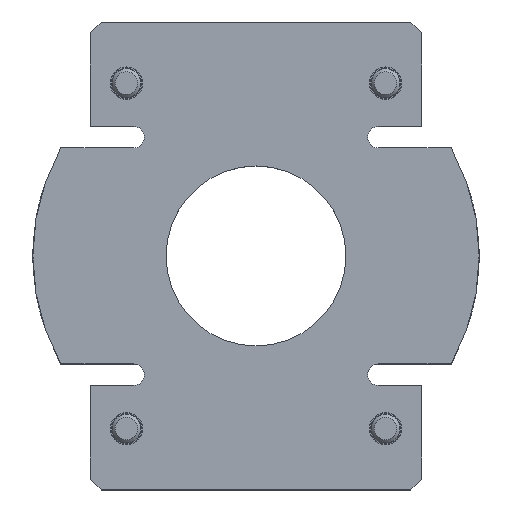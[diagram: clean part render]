
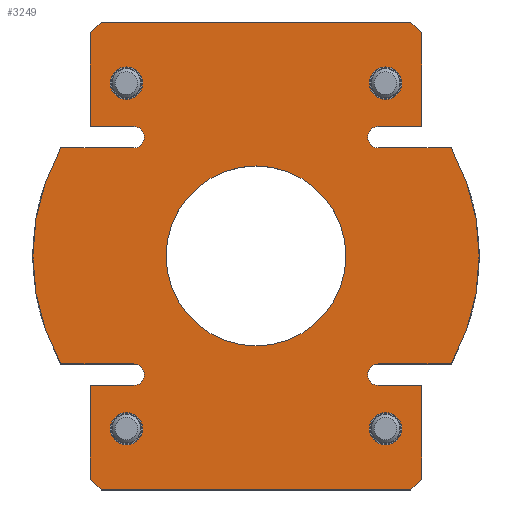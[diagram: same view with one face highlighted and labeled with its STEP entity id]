
A CAD part, top view. The second image highlights one B-rep face of the part: STEP entity #3249.
In plain terms, the highlighted planar face has unit normal (0, 0, 1) as drawn and (0, 0, -1) by its records, which use the part's own axes.
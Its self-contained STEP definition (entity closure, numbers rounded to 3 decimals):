
#163=FACE_BOUND('',#621,.T.);
#164=FACE_BOUND('',#622,.T.);
#165=FACE_BOUND('',#623,.T.);
#166=FACE_BOUND('',#624,.T.);
#167=FACE_BOUND('',#625,.T.);
#290=PLANE('',#3674);
#405=FACE_OUTER_BOUND('',#620,.T.);
#620=EDGE_LOOP('',(#2659,#2660,#2661,#2662,#2663,#2664,#2665,#2666,#2667,
#2668,#2669,#2670,#2671,#2672,#2673,#2674,#2675,#2676,#2677,#2678,#2679,
#2680,#2681,#2682));
#621=EDGE_LOOP('',(#2683));
#622=EDGE_LOOP('',(#2684));
#623=EDGE_LOOP('',(#2685));
#624=EDGE_LOOP('',(#2686));
#625=EDGE_LOOP('',(#2687,#2688));
#766=LINE('',#5132,#978);
#770=LINE('',#5139,#982);
#790=LINE('',#5208,#1002);
#793=LINE('',#5213,#1005);
#795=LINE('',#5217,#1007);
#797=LINE('',#5221,#1009);
#799=LINE('',#5226,#1011);
#801=LINE('',#5229,#1013);
#805=LINE('',#5252,#1017);
#810=LINE('',#5265,#1022);
#814=LINE('',#5275,#1026);
#817=LINE('',#5283,#1029);
#827=LINE('',#5326,#1039);
#846=LINE('',#5367,#1058);
#854=LINE('',#5398,#1066);
#859=LINE('',#5416,#1071);
#862=LINE('',#5423,#1074);
#863=LINE('',#5425,#1075);
#978=VECTOR('',#4113,10.);
#982=VECTOR('',#4119,10.);
#1002=VECTOR('',#4171,10.);
#1005=VECTOR('',#4176,10.);
#1007=VECTOR('',#4180,10.);
#1009=VECTOR('',#4184,10.);
#1011=VECTOR('',#4188,10.);
#1013=VECTOR('',#4192,10.);
#1017=VECTOR('',#4218,10.);
#1022=VECTOR('',#4233,10.);
#1026=VECTOR('',#4243,10.);
#1029=VECTOR('',#4252,10.);
#1039=VECTOR('',#4298,10.);
#1058=VECTOR('',#4331,10.);
#1066=VECTOR('',#4369,10.);
#1071=VECTOR('',#4390,10.);
#1074=VECTOR('',#4399,10.);
#1075=VECTOR('',#4402,10.);
#1212=CIRCLE('',#3601,1.5);
#1213=CIRCLE('',#3603,1.5);
#1214=CIRCLE('',#3606,1.5);
#1215=CIRCLE('',#3609,1.5);
#1234=CIRCLE('',#3647,31.);
#1239=CIRCLE('',#3660,31.);
#1240=CIRCLE('',#3664,2.25);
#1241=CIRCLE('',#3666,2.25);
#1242=CIRCLE('',#3668,2.25);
#1243=CIRCLE('',#3670,2.25);
#1244=CIRCLE('',#3672,12.5);
#1245=CIRCLE('',#3673,12.5);
#1413=VERTEX_POINT('',#5129);
#1414=VERTEX_POINT('',#5131);
#1416=VERTEX_POINT('',#5137);
#1448=VERTEX_POINT('',#5205);
#1449=VERTEX_POINT('',#5207);
#1450=VERTEX_POINT('',#5211);
#1451=VERTEX_POINT('',#5215);
#1452=VERTEX_POINT('',#5219);
#1453=VERTEX_POINT('',#5223);
#1454=VERTEX_POINT('',#5225);
#1461=VERTEX_POINT('',#5249);
#1462=VERTEX_POINT('',#5251);
#1463=VERTEX_POINT('',#5255);
#1464=VERTEX_POINT('',#5259);
#1465=VERTEX_POINT('',#5261);
#1466=VERTEX_POINT('',#5267);
#1467=VERTEX_POINT('',#5269);
#1468=VERTEX_POINT('',#5273);
#1469=VERTEX_POINT('',#5277);
#1470=VERTEX_POINT('',#5279);
#1485=VERTEX_POINT('',#5325);
#1500=VERTEX_POINT('',#5365);
#1513=VERTEX_POINT('',#5415);
#1514=VERTEX_POINT('',#5419);
#1515=VERTEX_POINT('',#5427);
#1516=VERTEX_POINT('',#5431);
#1517=VERTEX_POINT('',#5435);
#1518=VERTEX_POINT('',#5439);
#1519=VERTEX_POINT('',#5443);
#1520=VERTEX_POINT('',#5444);
#1777=EDGE_CURVE('',#1413,#1414,#766,.T.);
#1781=EDGE_CURVE('',#1416,#1413,#770,.T.);
#1815=EDGE_CURVE('',#1448,#1449,#790,.T.);
#1818=EDGE_CURVE('',#1450,#1448,#793,.T.);
#1820=EDGE_CURVE('',#1451,#1450,#795,.T.);
#1822=EDGE_CURVE('',#1452,#1451,#797,.T.);
#1824=EDGE_CURVE('',#1453,#1454,#799,.T.);
#1826=EDGE_CURVE('',#1414,#1453,#801,.T.);
#1836=EDGE_CURVE('',#1462,#1461,#805,.T.);
#1838=EDGE_CURVE('',#1463,#1462,#1212,.T.);
#1841=EDGE_CURVE('',#1465,#1464,#1213,.T.);
#1843=EDGE_CURVE('',#1452,#1465,#810,.T.);
#1845=EDGE_CURVE('',#1467,#1466,#1214,.T.);
#1848=EDGE_CURVE('',#1466,#1468,#814,.T.);
#1850=EDGE_CURVE('',#1470,#1469,#1215,.T.);
#1852=EDGE_CURVE('',#1416,#1470,#817,.T.);
#1872=EDGE_CURVE('',#1485,#1467,#827,.T.);
#1893=EDGE_CURVE('',#1464,#1500,#846,.T.);
#1906=EDGE_CURVE('',#1485,#1500,#1234,.T.);
#1908=EDGE_CURVE('',#1454,#1468,#854,.T.);
#1917=EDGE_CURVE('',#1513,#1463,#859,.T.);
#1919=EDGE_CURVE('',#1514,#1513,#1239,.T.);
#1921=EDGE_CURVE('',#1469,#1514,#862,.T.);
#1922=EDGE_CURVE('',#1449,#1461,#863,.T.);
#1924=EDGE_CURVE('',#1515,#1515,#1240,.T.);
#1926=EDGE_CURVE('',#1516,#1516,#1241,.T.);
#1928=EDGE_CURVE('',#1517,#1517,#1242,.T.);
#1930=EDGE_CURVE('',#1518,#1518,#1243,.T.);
#1931=EDGE_CURVE('',#1519,#1520,#1244,.T.);
#1932=EDGE_CURVE('',#1520,#1519,#1245,.T.);
#2659=ORIENTED_EDGE('',*,*,#1777,.F.);
#2660=ORIENTED_EDGE('',*,*,#1781,.F.);
#2661=ORIENTED_EDGE('',*,*,#1852,.T.);
#2662=ORIENTED_EDGE('',*,*,#1850,.T.);
#2663=ORIENTED_EDGE('',*,*,#1921,.T.);
#2664=ORIENTED_EDGE('',*,*,#1919,.T.);
#2665=ORIENTED_EDGE('',*,*,#1917,.T.);
#2666=ORIENTED_EDGE('',*,*,#1838,.T.);
#2667=ORIENTED_EDGE('',*,*,#1836,.T.);
#2668=ORIENTED_EDGE('',*,*,#1922,.F.);
#2669=ORIENTED_EDGE('',*,*,#1815,.F.);
#2670=ORIENTED_EDGE('',*,*,#1818,.F.);
#2671=ORIENTED_EDGE('',*,*,#1820,.F.);
#2672=ORIENTED_EDGE('',*,*,#1822,.F.);
#2673=ORIENTED_EDGE('',*,*,#1843,.T.);
#2674=ORIENTED_EDGE('',*,*,#1841,.T.);
#2675=ORIENTED_EDGE('',*,*,#1893,.T.);
#2676=ORIENTED_EDGE('',*,*,#1906,.F.);
#2677=ORIENTED_EDGE('',*,*,#1872,.T.);
#2678=ORIENTED_EDGE('',*,*,#1845,.T.);
#2679=ORIENTED_EDGE('',*,*,#1848,.T.);
#2680=ORIENTED_EDGE('',*,*,#1908,.F.);
#2681=ORIENTED_EDGE('',*,*,#1824,.F.);
#2682=ORIENTED_EDGE('',*,*,#1826,.F.);
#2683=ORIENTED_EDGE('',*,*,#1924,.T.);
#2684=ORIENTED_EDGE('',*,*,#1926,.T.);
#2685=ORIENTED_EDGE('',*,*,#1928,.T.);
#2686=ORIENTED_EDGE('',*,*,#1930,.T.);
#2687=ORIENTED_EDGE('',*,*,#1931,.T.);
#2688=ORIENTED_EDGE('',*,*,#1932,.T.);
#3249=ADVANCED_FACE('',(#405,#163,#164,#165,#166,#167),#290,.F.);
#3601=AXIS2_PLACEMENT_3D('',#5256,#4222,#4223);
#3603=AXIS2_PLACEMENT_3D('',#5262,#4228,#4229);
#3606=AXIS2_PLACEMENT_3D('',#5270,#4237,#4238);
#3609=AXIS2_PLACEMENT_3D('',#5280,#4247,#4248);
#3647=AXIS2_PLACEMENT_3D('',#5393,#4360,#4361);
#3660=AXIS2_PLACEMENT_3D('',#5420,#4394,#4395);
#3664=AXIS2_PLACEMENT_3D('',#5429,#4406,#4407);
#3666=AXIS2_PLACEMENT_3D('',#5433,#4411,#4412);
#3668=AXIS2_PLACEMENT_3D('',#5437,#4416,#4417);
#3670=AXIS2_PLACEMENT_3D('',#5441,#4421,#4422);
#3672=AXIS2_PLACEMENT_3D('',#5445,#4425,#4426);
#3673=AXIS2_PLACEMENT_3D('',#5446,#4427,#4428);
#3674=AXIS2_PLACEMENT_3D('',#5448,#4430,#4431);
#4113=DIRECTION('',(-0.707,-0.707,0.));
#4119=DIRECTION('',(-1.,0.,0.));
#4171=DIRECTION('',(-0.707,0.707,0.));
#4176=DIRECTION('',(0.,1.,0.));
#4180=DIRECTION('',(0.707,0.707,0.));
#4184=DIRECTION('',(1.,0.,0.));
#4188=DIRECTION('',(0.707,-0.707,0.));
#4192=DIRECTION('',(0.,-1.,0.));
#4218=DIRECTION('',(0.,1.,0.));
#4222=DIRECTION('center_axis',(0.,0.,1.));
#4223=DIRECTION('ref_axis',(-1.,0.,0.));
#4228=DIRECTION('center_axis',(0.,0.,1.));
#4229=DIRECTION('ref_axis',(1.,0.,0.));
#4233=DIRECTION('',(0.,1.,0.));
#4237=DIRECTION('center_axis',(0.,0.,1.));
#4238=DIRECTION('ref_axis',(-1.,0.,0.));
#4243=DIRECTION('',(0.,-1.,0.));
#4247=DIRECTION('center_axis',(0.,0.,1.));
#4248=DIRECTION('ref_axis',(1.,0.,0.));
#4252=DIRECTION('',(0.,-1.,0.));
#4298=DIRECTION('',(0.,1.,0.));
#4331=DIRECTION('',(0.,-1.,0.));
#4360=DIRECTION('center_axis',(0.,0.,1.));
#4361=DIRECTION('ref_axis',(1.,0.,0.));
#4369=DIRECTION('',(1.,0.,0.));
#4390=DIRECTION('',(0.,-1.,0.));
#4394=DIRECTION('center_axis',(0.,0.,-1.));
#4395=DIRECTION('ref_axis',(1.,0.,0.));
#4399=DIRECTION('',(0.,1.,0.));
#4402=DIRECTION('',(-1.,0.,0.));
#4406=DIRECTION('center_axis',(0.,0.,1.));
#4407=DIRECTION('ref_axis',(1.,0.,0.));
#4411=DIRECTION('center_axis',(0.,0.,1.));
#4412=DIRECTION('ref_axis',(1.,0.,0.));
#4416=DIRECTION('center_axis',(0.,0.,1.));
#4417=DIRECTION('ref_axis',(1.,0.,0.));
#4421=DIRECTION('center_axis',(0.,0.,1.));
#4422=DIRECTION('ref_axis',(1.,0.,0.));
#4425=DIRECTION('center_axis',(0.,0.,1.));
#4426=DIRECTION('ref_axis',(1.,0.,0.));
#4427=DIRECTION('center_axis',(0.,0.,1.));
#4428=DIRECTION('ref_axis',(1.,0.,0.));
#4430=DIRECTION('center_axis',(0.,0.,1.));
#4431=DIRECTION('ref_axis',(1.,0.,0.));
#5129=CARTESIAN_POINT('',(-31.,23.,0.));
#5131=CARTESIAN_POINT('',(-32.5,21.5,0.));
#5132=CARTESIAN_POINT('',(-29.375,24.625,0.));
#5137=CARTESIAN_POINT('',(-18.,23.,0.));
#5139=CARTESIAN_POINT('',(32.5,23.,0.));
#5205=CARTESIAN_POINT('',(32.5,21.5,0.));
#5207=CARTESIAN_POINT('',(31.,23.,0.));
#5208=CARTESIAN_POINT('',(29.375,24.625,0.));
#5211=CARTESIAN_POINT('',(32.5,-21.5,0.));
#5213=CARTESIAN_POINT('',(32.5,-23.,0.));
#5215=CARTESIAN_POINT('',(31.,-23.,0.));
#5217=CARTESIAN_POINT('',(29.375,-24.625,0.));
#5219=CARTESIAN_POINT('',(18.,-23.,0.));
#5221=CARTESIAN_POINT('',(-32.5,-23.,0.));
#5223=CARTESIAN_POINT('',(-32.5,-21.5,0.));
#5225=CARTESIAN_POINT('',(-31.,-23.,0.));
#5226=CARTESIAN_POINT('',(-29.375,-24.625,0.));
#5229=CARTESIAN_POINT('',(-32.5,23.,0.));
#5249=CARTESIAN_POINT('',(18.,23.,0.));
#5251=CARTESIAN_POINT('',(18.,17.,0.));
#5252=CARTESIAN_POINT('',(18.,11.5,0.));
#5255=CARTESIAN_POINT('',(15.,17.,0.));
#5256=CARTESIAN_POINT('Origin',(16.5,17.,0.));
#5259=CARTESIAN_POINT('',(15.,-17.,0.));
#5261=CARTESIAN_POINT('',(18.,-17.,0.));
#5262=CARTESIAN_POINT('Origin',(16.5,-17.,0.));
#5265=CARTESIAN_POINT('',(18.,-8.5,0.));
#5267=CARTESIAN_POINT('',(-18.,-17.,0.));
#5269=CARTESIAN_POINT('',(-15.,-17.,0.));
#5270=CARTESIAN_POINT('Origin',(-16.5,-17.,0.));
#5273=CARTESIAN_POINT('',(-18.,-23.,0.));
#5275=CARTESIAN_POINT('',(-18.,-8.5,0.));
#5277=CARTESIAN_POINT('',(-15.,17.,0.));
#5279=CARTESIAN_POINT('',(-18.,17.,0.));
#5280=CARTESIAN_POINT('Origin',(-16.5,17.,0.));
#5283=CARTESIAN_POINT('',(-18.,11.5,0.));
#5325=CARTESIAN_POINT('',(-15.,-27.129,0.));
#5326=CARTESIAN_POINT('',(-15.,-11.5,0.));
#5365=CARTESIAN_POINT('',(15.,-27.129,0.));
#5367=CARTESIAN_POINT('',(15.,-11.5,0.));
#5393=CARTESIAN_POINT('Origin',(0.,0.,0.));
#5398=CARTESIAN_POINT('',(-32.5,-23.,0.));
#5415=CARTESIAN_POINT('',(15.,27.129,0.));
#5416=CARTESIAN_POINT('',(15.,7.5,0.));
#5419=CARTESIAN_POINT('',(-15.,27.129,0.));
#5420=CARTESIAN_POINT('Origin',(0.,0.,0.));
#5423=CARTESIAN_POINT('',(-15.,8.5,0.));
#5425=CARTESIAN_POINT('',(32.5,23.,0.));
#5427=CARTESIAN_POINT('',(21.75,18.,0.));
#5429=CARTESIAN_POINT('Origin',(24.,18.,0.));
#5431=CARTESIAN_POINT('',(-26.25,-18.,0.));
#5433=CARTESIAN_POINT('Origin',(-24.,-18.,0.));
#5435=CARTESIAN_POINT('',(-26.25,18.,0.));
#5437=CARTESIAN_POINT('Origin',(-24.,18.,0.));
#5439=CARTESIAN_POINT('',(21.75,-18.,0.));
#5441=CARTESIAN_POINT('Origin',(24.,-18.,0.));
#5443=CARTESIAN_POINT('',(12.5,0.,0.));
#5444=CARTESIAN_POINT('',(-12.5,0.,0.));
#5445=CARTESIAN_POINT('Origin',(0.,0.,0.));
#5446=CARTESIAN_POINT('Origin',(0.,0.,0.));
#5448=CARTESIAN_POINT('Origin',(0.,0.,
0.));
